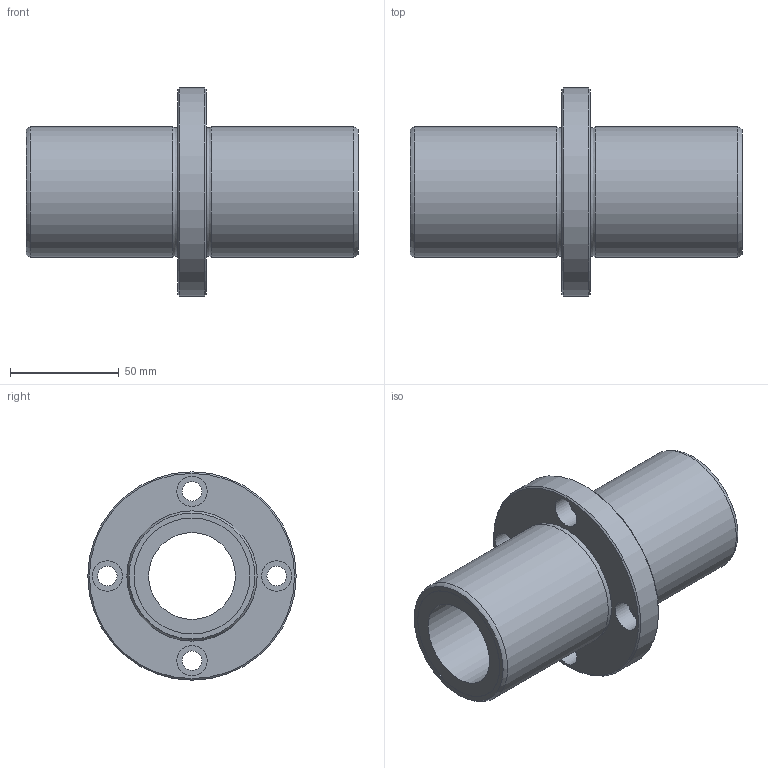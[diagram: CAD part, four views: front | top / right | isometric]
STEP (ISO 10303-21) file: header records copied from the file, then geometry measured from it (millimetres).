
FILE_DESCRIPTION((''),'2;1');
FILE_NAME('D:\製品 (図面)\カタログ用3D\リニアベアリング関連\STEP形式\LFDC\LFDC40.stp','2010-06-03T09:28:47',('Tsuchiya'),(''),'Autodesk Inventor 10','Autodesk Inventor 10','');
FILE_SCHEMA(('AUTOMOTIVE_DESIGN { 1 0 10303 214 1 1 1 1 }'));
Length unit declared in the file: millimetre
Products named in the file (1): LFDC40
Bounding box: 153 x 96 x 96 mm (x, y, z)
Volume: 290228.8 mm3; surface area: 62641.2 mm2
Topology: 1 solids, 1 shells, 30 faces, 54 edges, 34 vertices
Faces by surface type: cylinder 14, plane 10, cone 2, torus 2, bspline 2
Full cylindrical faces by diameter (mm): 9 x4, 14 x4, 40 x1, 53.4 x2, 60 x2, 96 x1
Entity records: 803 total; most frequent: CARTESIAN_POINT 223, DIRECTION 126, ORIENTED_EDGE 68, EDGE_LOOP 68, AXIS2_PLACEMENT_3D 63, FACE_BOUND 38, VERTEX_POINT 34, CIRCLE 34
